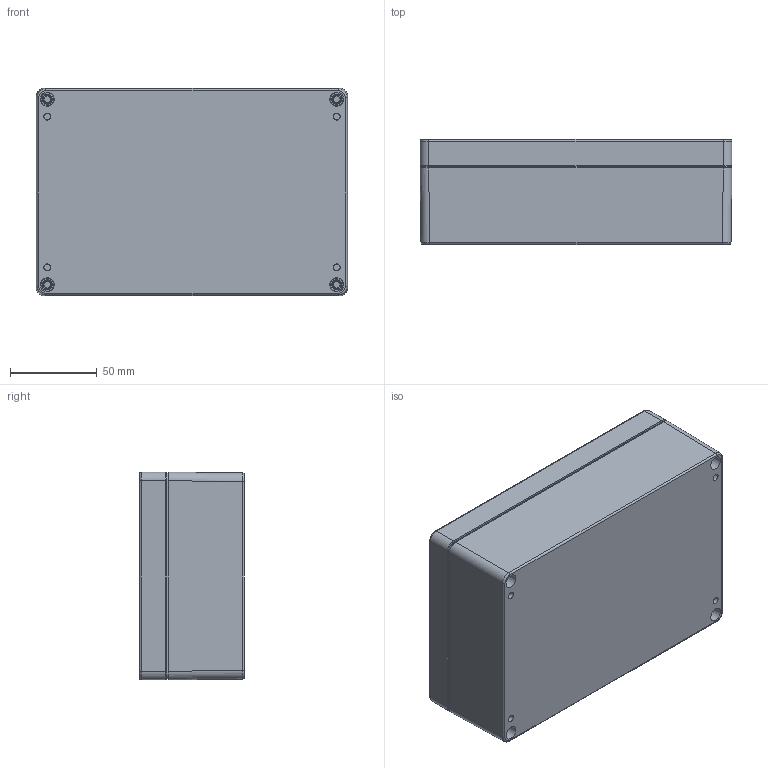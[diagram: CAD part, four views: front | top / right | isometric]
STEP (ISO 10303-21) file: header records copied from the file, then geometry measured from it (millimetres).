
FILE_DESCRIPTION(/* description */ (''),/* implementation_level */ '2;1');
FILE_NAME(/* name */ 'C:\Users\Mbeerman\Desktop\B\1554H\1554H.iam.stp',/* time_stamp */ '2016-01-06T07:41:33-05:00',/* author */ ('rboehler'),/* organization */ (''),/* preprocessor_version */ 'ST-DEVELOPER v16.1',/* originating_system */ 'Autodesk Inventor 2016',/* authorisation */ '');
FILE_SCHEMA (('AUTOMOTIVE_DESIGN { 1 0 10303 214 3 1 1 }'));
Products named in the file (7): 1554H Box; 1554H-T Lid; 1554H-T GASKET; SC576 (screw M4-0.7X 20mm PN); IN-M4 (insert M4-0.7X5.75mm SS); IN100 (insert M3-0.5X5.75mm BRASS); 1554H
Assembly tree (15 placements, depth 2):
  1554H
    1554H Box
    1554H-T Lid
    1554H-T GASKET
    SC576 (screw M4-0.7X 20mm PN)  x4
    IN-M4 (insert M4-0.7X5.75mm SS)  x4
    IN100 (insert M3-0.5X5.75mm BRASS)  x4
Bounding box: 180 x 60.5 x 120 mm (x, y, z)
Volume: 249247.2 mm3; surface area: 179457.9 mm2
Topology: 15 solids, 15 shells, 1364 faces, 3560 edges, 2304 vertices
Faces by surface type: plane 382, cylinder 348, bspline 332, cone 210, torus 76, sphere 16
Full cylindrical faces by diameter (mm): 2 x8, 2.464 x4, 3.251 x4, 3.43 x4, 3.5 x4, 3.81 x12, 3.88 x4, 3.912 x4, 5.334 x4, 5.537 x8, 6.35 x8
Entity records: 26502 total; most frequent: CARTESIAN_POINT 7221, ORIENTED_EDGE 3962, DIRECTION 3936, EDGE_CURVE 1981, AXIS2_PLACEMENT_3D 1556, VERTEX_POINT 1293, EDGE_LOOP 972, LINE 824
